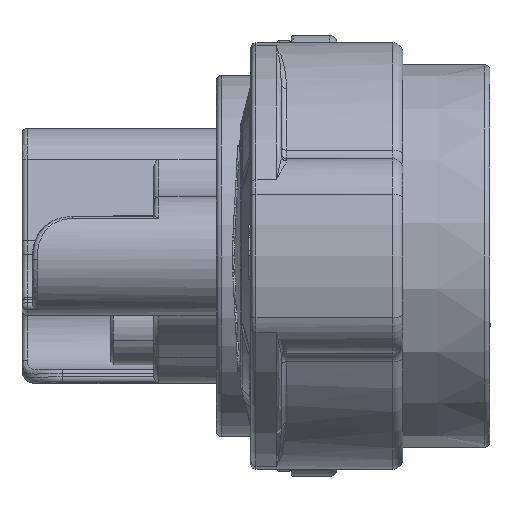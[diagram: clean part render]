
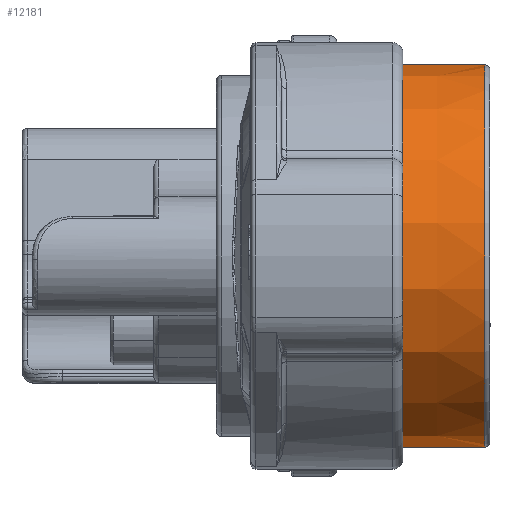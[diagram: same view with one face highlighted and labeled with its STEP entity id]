
A CAD part, front view. The second image highlights one B-rep face of the part: STEP entity #12181.
In plain terms, the highlighted conical face has half-angle 0.3 degrees and reference radius 18.95 mm.
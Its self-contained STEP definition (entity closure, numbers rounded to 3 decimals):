
#644 = CARTESIAN_POINT ( 'NONE',  ( -110.861, -10.227, -18.909 ) ) ;
#1741 = DIRECTION ( 'NONE',  ( 0., 0., 1. ) ) ;
#2210 = CARTESIAN_POINT ( 'NONE',  ( -110.364, -24.433, 12.581 ) ) ;
#2532 = FACE_OUTER_BOUND ( 'NONE', #19277, .T. ) ;
#2737 = DIRECTION ( 'NONE',  ( -1., 0., 0.005 ) ) ;
#6054 = VECTOR ( 'NONE', #2737, 1000. ) ;
#9048 = CARTESIAN_POINT ( 'NONE',  ( -110.364, -24.587, -12.32 ) ) ;
#9695 = DIRECTION ( 'NONE',  ( 0., 0., 1. ) ) ;
#10852 = VERTEX_POINT ( 'NONE', #20562 ) ;
#11151 = VERTEX_POINT ( 'NONE', #23896 ) ;
#11756 = CARTESIAN_POINT ( 'NONE',  ( -110.449, -23.956, 13.102 ) ) ;
#11785 = DIRECTION ( 'NONE',  ( 0., 0., 1. ) ) ;
#12095 = CARTESIAN_POINT ( 'NONE',  ( -110.393, -24.276, 12.757 ) ) ;
#12181 = ADVANCED_FACE ( 'NONE', ( #2532 ), #58585, .T. ) ;
#12934 = LINE ( 'NONE', #47892, #6054 ) ;
#13610 = AXIS2_PLACEMENT_3D ( 'NONE', #25972, #46004, #9695 ) ;
#14484 = CARTESIAN_POINT ( 'NONE',  ( -110.393, -24.276, -12.675 ) ) ;
#14766 = CARTESIAN_POINT ( 'NONE',  ( -110.364, -10.227, -18.906 ) ) ;
#14808 = CARTESIAN_POINT ( 'NONE',  ( -110.449, -23.955, -13.021 ) ) ;
#14850 = CIRCLE ( 'NONE', #52754, 18.874 ) ;
#15175 = CARTESIAN_POINT ( 'NONE',  ( -110.449, -23.289, 13.769 ) ) ;
#15212 = VECTOR ( 'NONE', #16422, 1000. ) ;
#16422 = DIRECTION ( 'NONE',  ( -1., 0., -0.005 ) ) ;
#16880 = CARTESIAN_POINT ( 'NONE',  ( -110.364, -10.227, 0.041 ) ) ;
#18344 = VERTEX_POINT ( 'NONE', #28188 ) ;
#18907 = CARTESIAN_POINT ( 'NONE',  ( -110.474, -23.791, -13.191 ) ) ;
#18937 = AXIS2_PLACEMENT_3D ( 'NONE', #38065, #62503, #1741 ) ;
#19264 = DIRECTION ( 'NONE',  ( -1., 0., 0. ) ) ;
#19277 = EDGE_LOOP ( 'NONE', ( #20623, #60769, #24530, #47319, #40079, #33776, #50841, #64094 ) ) ;
#20262 = CARTESIAN_POINT ( 'NONE',  ( -110.364, -22.767, 14.247 ) ) ;
#20562 = CARTESIAN_POINT ( 'NONE',  ( -110.364, -10.227, 18.988 ) ) ;
#20623 = ORIENTED_EDGE ( 'NONE', *, *, #36778, .T. ) ;
#23548 = CARTESIAN_POINT ( 'NONE',  ( -110.364, -24.587, 12.402 ) ) ;
#23896 = CARTESIAN_POINT ( 'NONE',  ( -96.258, -10.227, -18.832 ) ) ;
#24530 = ORIENTED_EDGE ( 'NONE', *, *, #56497, .T. ) ;
#24594 = EDGE_CURVE ( 'NONE', #48529, #38150, #31511, .T. ) ;
#25972 = CARTESIAN_POINT ( 'NONE',  ( -110.364, -10.227, 0.041 ) ) ;
#26375 = VERTEX_POINT ( 'NONE', #23548 ) ;
#28188 = CARTESIAN_POINT ( 'NONE',  ( -96.258, -10.227, 18.915 ) ) ;
#28735 = CARTESIAN_POINT ( 'NONE',  ( -110.449, -23.288, -13.688 ) ) ;
#29367 = AXIS2_PLACEMENT_3D ( 'NONE', #51847, #38525, #36580 ) ;
#29737 = CARTESIAN_POINT ( 'NONE',  ( -110.364, -24.433, -12.499 ) ) ;
#30841 = CIRCLE ( 'NONE', #18937, 18.947 ) ;
#31511 = B_SPLINE_CURVE_WITH_KNOTS ( 'NONE', 3,
 ( #9048, #29737, #14484, #14808, #18907, #34837, #28735, #54520, #65369, #34181 ),
 .UNSPECIFIED., .F., .F.,
 ( 4, 2, 2, 2, 4 ),
 ( 0., 0.001, 0.001, 0.002, 0.003 ),
 .UNSPECIFIED. ) ;
#33458 = CARTESIAN_POINT ( 'NONE',  ( -110.364, -24.587, 12.402 ) ) ;
#33776 = ORIENTED_EDGE ( 'NONE', *, *, #24594, .T. ) ;
#34181 = CARTESIAN_POINT ( 'NONE',  ( -110.364, -22.588, -14.319 ) ) ;
#34837 = CARTESIAN_POINT ( 'NONE',  ( -110.474, -23.458, -13.524 ) ) ;
#35308 = CARTESIAN_POINT ( 'NONE',  ( -110.364, -24.587, -12.32 ) ) ;
#35855 = CARTESIAN_POINT ( 'NONE',  ( -110.474, -23.792, 13.272 ) ) ;
#36580 = DIRECTION ( 'NONE',  ( 0., 0., -1. ) ) ;
#36778 = EDGE_CURVE ( 'NONE', #11151, #18344, #14850, .T. ) ;
#38065 = CARTESIAN_POINT ( 'NONE',  ( -110.364, -10.227, 0.041 ) ) ;
#38150 = VERTEX_POINT ( 'NONE', #44641 ) ;
#38525 = DIRECTION ( 'NONE',  ( -1., 0., 0. ) ) ;
#39940 = DIRECTION ( 'NONE',  ( 0., 0., -1. ) ) ;
#40079 = ORIENTED_EDGE ( 'NONE', *, *, #49537, .T. ) ;
#40953 = CARTESIAN_POINT ( 'NONE',  ( -110.393, -22.943, 14.09 ) ) ;
#44641 = CARTESIAN_POINT ( 'NONE',  ( -110.364, -22.588, -14.319 ) ) ;
#46004 = DIRECTION ( 'NONE',  ( 1., 0., 0. ) ) ;
#46045 = CARTESIAN_POINT ( 'NONE',  ( -110.364, -22.588, 14.401 ) ) ;
#46558 = EDGE_CURVE ( 'NONE', #56081, #26375, #50630, .T. ) ;
#47319 = ORIENTED_EDGE ( 'NONE', *, *, #46558, .T. ) ;
#47413 = CIRCLE ( 'NONE', #63659, 18.947 ) ;
#47892 = CARTESIAN_POINT ( 'NONE',  ( -110.861, -10.227, 18.991 ) ) ;
#48276 = CIRCLE ( 'NONE', #13610, 18.947 ) ;
#48418 = DIRECTION ( 'NONE',  ( 1., 0., 0. ) ) ;
#48529 = VERTEX_POINT ( 'NONE', #35308 ) ;
#49537 = EDGE_CURVE ( 'NONE', #26375, #48529, #30841, .T. ) ;
#50630 = B_SPLINE_CURVE_WITH_KNOTS ( 'NONE', 3,
 ( #46045, #20262, #40953, #15175, #61625, #35855, #11756, #12095, #2210, #33458 ),
 .UNSPECIFIED., .F., .F.,
 ( 4, 2, 2, 2, 4 ),
 ( 0., 0.001, 0.001, 0.002, 0.003 ),
 .UNSPECIFIED. ) ;
#50841 = ORIENTED_EDGE ( 'NONE', *, *, #52201, .T. ) ;
#51847 = CARTESIAN_POINT ( 'NONE',  ( -110.861, -10.227, 0.041 ) ) ;
#52201 = EDGE_CURVE ( 'NONE', #38150, #53794, #48276, .T. ) ;
#52218 = LINE ( 'NONE', #644, #15212 ) ;
#52754 = AXIS2_PLACEMENT_3D ( 'NONE', #65719, #19264, #39940 ) ;
#53794 = VERTEX_POINT ( 'NONE', #14766 ) ;
#54370 = EDGE_CURVE ( 'NONE', #18344, #10852, #12934, .T. ) ;
#54520 = CARTESIAN_POINT ( 'NONE',  ( -110.393, -22.943, -14.008 ) ) ;
#56081 = VERTEX_POINT ( 'NONE', #58640 ) ;
#56497 = EDGE_CURVE ( 'NONE', #10852, #56081, #47413, .T. ) ;
#58585 = CONICAL_SURFACE ( 'NONE', #29367, 18.95, 0.005 ) ;
#58640 = CARTESIAN_POINT ( 'NONE',  ( -110.364, -22.588, 14.401 ) ) ;
#60675 = EDGE_CURVE ( 'NONE', #11151, #53794, #52218, .T. ) ;
#60769 = ORIENTED_EDGE ( 'NONE', *, *, #54370, .T. ) ;
#61625 = CARTESIAN_POINT ( 'NONE',  ( -110.474, -23.459, 13.605 ) ) ;
#62503 = DIRECTION ( 'NONE',  ( 1., 0., 0. ) ) ;
#63659 = AXIS2_PLACEMENT_3D ( 'NONE', #16880, #48418, #11785 ) ;
#64094 = ORIENTED_EDGE ( 'NONE', *, *, #60675, .F. ) ;
#65369 = CARTESIAN_POINT ( 'NONE',  ( -110.364, -22.767, -14.165 ) ) ;
#65719 = CARTESIAN_POINT ( 'NONE',  ( -96.258, -10.227, 0.041 ) ) ;
